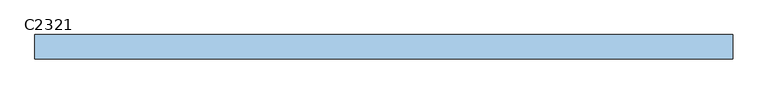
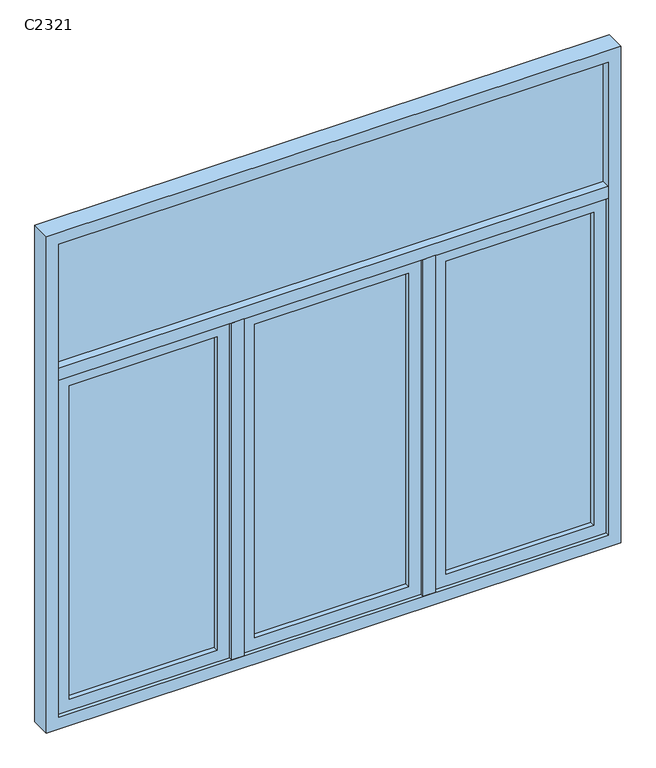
"""IFC4 building model written with IfcOpenShell, lengths in millimetres: window geometry, 组合窗 - 双层三列(三扇平开) - 上部单扇 : C2321."""

from ifc_helpers import new_model, si_unit, frame, origin, place, context, project, spatial, polyline, outline, extrude, source, transform, mapped, element, save


def c2321_a531f027(model_context):
    return source(origin(), model_context, "Body", "SweptSolid", [
        extrude(outline(polyline([(308.3333333, -10.0), (-308.3333333, -10.0), (-308.3333333, 0.0), (308.3333333, 0.0), (308.3333333, -10.0)])), frame((0.0, 0.0, 1000.0), z_axis=(0.0, 0.0, 1.0), x_axis=(1.0, 0.0, 0.0)), (0.0, 0.0, 1.0), 1325.0),
        extrude(outline(polyline([(2375.0, 358.3333333), (2375.0, -358.3333333), (950.0, -358.3333333), (950.0, 358.3333333), (2375.0, 358.3333333)]), holes=[polyline([(1000.0, 308.3333333), (1000.0, -308.3333333), (2325.0, -308.3333333), (2325.0, 308.3333333), (1000.0, 308.3333333)])]), frame((0.0, -30.0, 0.0), z_axis=(0.0, 1.0, 0.0), x_axis=(0.0, 0.0, 1.0)), (0.0, 0.0, 1.0), 50.0),
        extrude(outline(polyline([(1100.0, -10.0), (-1100.0, -10.0), (-1100.0, 0.0), (1100.0, 0.0), (1100.0, -10.0)])), frame((0.0, 0.0, 2425.0), z_axis=(0.0, 0.0, 1.0), x_axis=(1.0, 0.0, 0.0)), (0.0, 0.0, 1.0), 525.0),
        extrude(outline(polyline([(-458.3333333, -10.0), (-1050.0, -10.0), (-1050.0, 0.0), (-458.3333333, 0.0), (-458.3333333, -10.0)])), frame((0.0, 0.0, 1000.0), z_axis=(0.0, 0.0, 1.0), x_axis=(1.0, 0.0, 0.0)), (0.0, 0.0, 1.0), 1325.0),
        extrude(outline(polyline([(2375.0, -408.3333333), (2375.0, -1100.0), (950.0, -1100.0), (950.0, -408.3333333), (2375.0, -408.3333333)]), holes=[polyline([(1000.0, -458.3333333), (1000.0, -1050.0), (2325.0, -1050.0), (2325.0, -458.3333333), (1000.0, -458.3333333)])]), frame((0.0, -30.0, 0.0), z_axis=(0.0, 1.0, 0.0), x_axis=(0.0, 0.0, 1.0)), (0.0, 0.0, 1.0), 50.0),
        extrude(outline(polyline([(1050.0, -10.0), (458.3333333, -10.0), (458.3333333, 0.0), (1050.0, 0.0), (1050.0, -10.0)])), frame((0.0, 0.0, 1000.0), z_axis=(0.0, 0.0, 1.0), x_axis=(1.0, 0.0, 0.0)), (0.0, 0.0, 1.0), 1325.0),
        extrude(outline(polyline([(2375.0, 1100.0), (2375.0, 408.3333333), (950.0, 408.3333333), (950.0, 1100.0), (2375.0, 1100.0)]), holes=[polyline([(1000.0, 1050.0), (1000.0, 458.3333333), (2325.0, 458.3333333), (2325.0, 1050.0), (1000.0, 1050.0)])]), frame((0.0, -30.0, 0.0), z_axis=(0.0, 1.0, 0.0), x_axis=(0.0, 0.0, 1.0)), (0.0, 0.0, 1.0), 50.0),
        extrude(outline(polyline([(358.3333333, 35.0), (408.3333333, 35.0), (408.3333333, -45.0), (358.3333333, -45.0), (358.3333333, 35.0)])), frame((0.0, 0.0, 950.0), z_axis=(0.0, 0.0, 1.0), x_axis=(1.0, 0.0, 0.0)), (0.0, 0.0, 1.0), 1425.0),
        extrude(outline(polyline([(-408.3333333, 35.0), (-358.3333333, 35.0), (-358.3333333, -45.0), (-408.3333333, -45.0), (-408.3333333, 35.0)])), frame((0.0, 0.0, 950.0), z_axis=(0.0, 0.0, 1.0), x_axis=(1.0, 0.0, 0.0)), (0.0, 0.0, 1.0), 1425.0),
        extrude(outline(polyline([(-1100.0, 35.0), (1100.0, 35.0), (1100.0, -45.0), (-1100.0, -45.0), (-1100.0, 35.0)])), frame((0.0, 0.0, 2375.0), z_axis=(0.0, 0.0, 1.0), x_axis=(1.0, 0.0, 0.0)), (0.0, 0.0, 1.0), 50.0),
        extrude(outline(polyline([(3000.0, -1150.0), (900.0, -1150.0), (900.0, 1150.0), (3000.0, 1150.0), (3000.0, -1150.0)]), holes=[polyline([(2950.0, 1100.0), (950.0, 1100.0), (950.0, -1100.0), (2950.0, -1100.0), (2950.0, 1100.0)])]), frame((0.0, -45.0, 0.0), z_axis=(0.0, 1.0, 0.0), x_axis=(0.0, 0.0, 1.0)), (0.0, 0.0, 1.0), 80.0),
    ])


if __name__ == "__main__":
    model = new_model("IFC4")
    model_context = context("Model", 3, world=origin())
    ifc_project = project(units=[si_unit("LENGTHUNIT", "METRE", prefix="MILLI")], contexts=[model_context])
    site = spatial("IfcSite", under=ifc_project)
    building = spatial("IfcBuilding", under=site)
    placement = place(None, origin())
    c2321_shape = c2321_a531f027(model_context)
    element("IfcWindow", 1, ObjectType="组合窗 - 双层三列(三扇平开) - 上部单扇 : C2321", at=placement, inside=building, context=model_context, shape_type="MappedRepresentation", body=[
        mapped(c2321_shape, transform((0.0, 0.0, 0.0), x_axis=(1.0, 0.0, 0.0), y_axis=(0.0, 1.0, 0.0), z_axis=(0.0, 0.0, 1.0))),
    ])
    save(model, "model.ifc")
